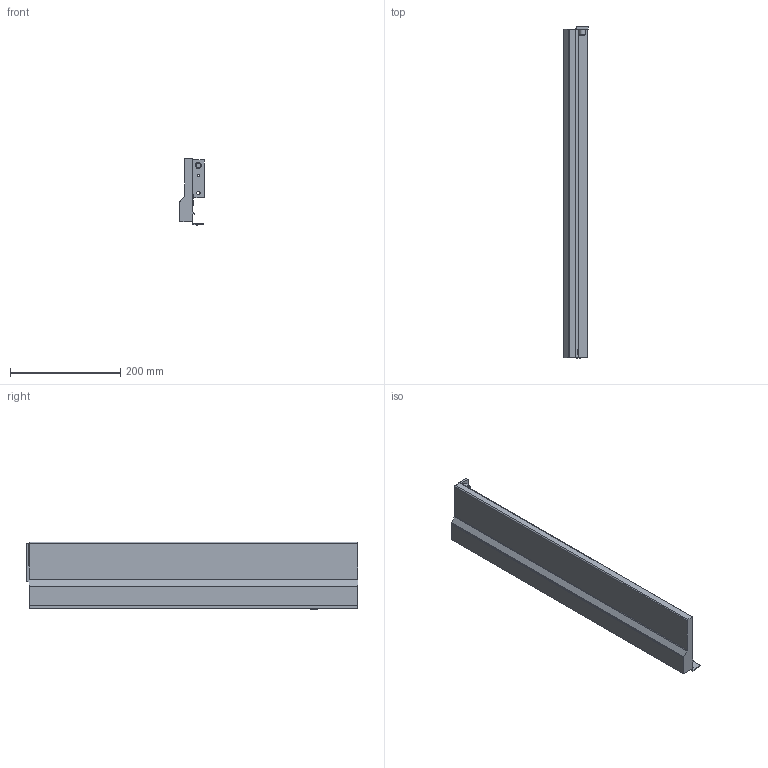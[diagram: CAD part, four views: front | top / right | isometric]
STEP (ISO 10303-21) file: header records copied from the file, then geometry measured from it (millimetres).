
FILE_DESCRIPTION (( 'STEP AP214' ), '1' );
FILE_NAME ('_IMOS_NOVA-Pro_Dekor-H122_CL_NL600_LI.step', '2010-07-06T09:36:24', ( 'grass' ), ( '' ), 'SwSTEP 2.0', 'SolidWorks 2009', '' );
FILE_SCHEMA (( 'AUTOMOTIVE_DESIGN' ));
Length unit declared in the file: millimetre
Products named in the file (1): _IMOS_NOVA-Pro_Dekor-H122_CL_NL600_LI
Bounding box: 44.3 x 602.7 x 122.49 mm (x, y, z)
Volume: 815170.1 mm3; surface area: 246237.8 mm2
Topology: 1 solids, 1 shells, 73 faces, 194 edges, 128 vertices
Faces by surface type: plane 42, cylinder 26, cone 4, bspline 1
Entity records: 2325 total; most frequent: CARTESIAN_POINT 417, DIRECTION 394, ORIENTED_EDGE 388, EDGE_CURVE 194, VECTOR 136, LINE 136, AXIS2_PLACEMENT_3D 129, VERTEX_POINT 128
